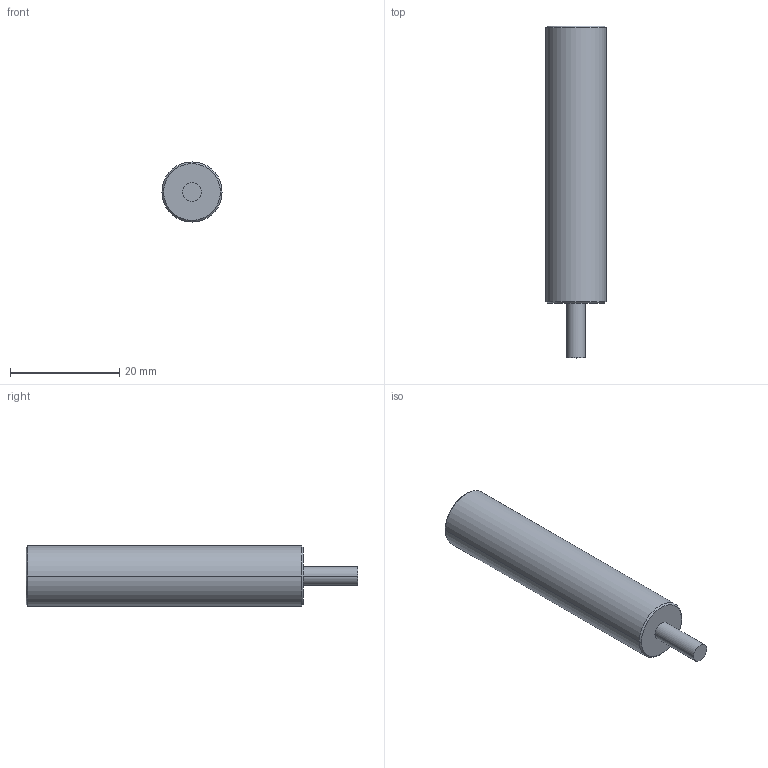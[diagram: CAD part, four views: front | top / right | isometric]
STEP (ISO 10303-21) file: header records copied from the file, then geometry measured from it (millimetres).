
FILE_DESCRIPTION((''),'2;1');
FILE_NAME('POLE_50_8','2012-11-01T',('asus'),(''),'PRO/ENGINEER BY PARAMETRIC TECHNOLOGY CORPORATION, 2010480','PRO/ENGINEER BY PARAMETRIC TECHNOLOGY CORPORATION, 2010480','');
FILE_SCHEMA(('CONFIG_CONTROL_DESIGN'));
Length unit declared in the file: millimetre
Products named in the file (1): POLE_50_8
Bounding box: 11 x 60.8 x 11 mm (x, y, z)
Volume: 4824.6 mm3; surface area: 2146.8 mm2
Topology: 1 solids, 1 shells, 14 faces, 26 edges, 16 vertices
Faces by surface type: cylinder 6, plane 4, cone 4
Entity records: 392 total; most frequent: DIRECTION 70, CARTESIAN_POINT 56, ORIENTED_EDGE 52, AXIS2_PLACEMENT_3D 30, EDGE_CURVE 26, VERTEX_POINT 16, EDGE_LOOP 16, CIRCLE 16
